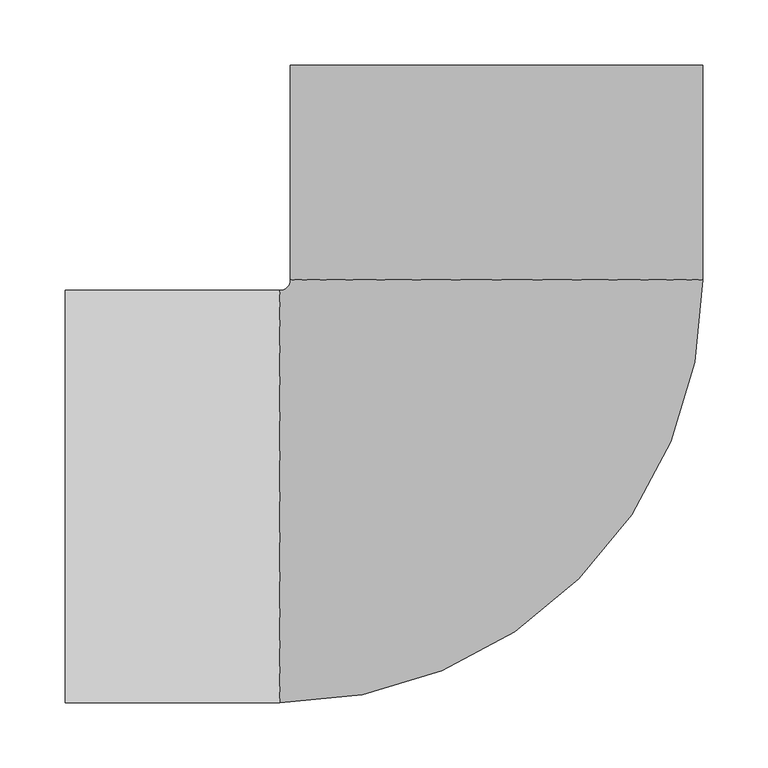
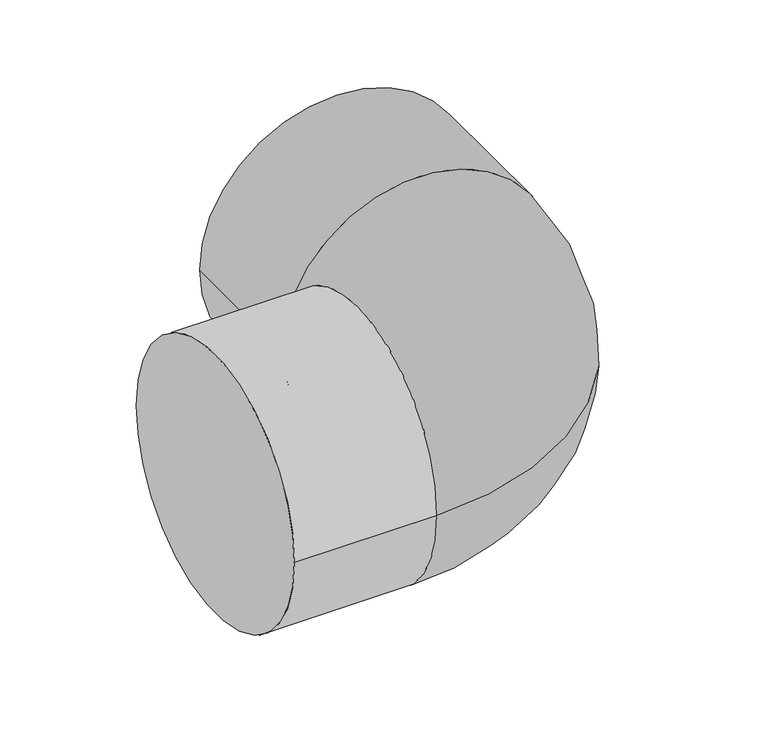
"""IFC4 building model written with IfcOpenShell, lengths in millimetres: pipe fitting geometry, 01051001 : Coudes à 90º."""

from ifc_helpers import new_model, si_unit, point, frame, origin, place, context, project, spatial, circle_curve, ellipse_curve, trimmed, source, transform, mapped, element, save
from ifc_brep_helpers import plane_surface, cylinder_surface, revolved_surface, advanced_brep


def pipe_fitting_15c40729(model_context):
    return source(origin(), model_context, "Body", "AdvancedBrep", [
        advanced_brep(
        [(-167.0, -158.65, 0.0), (158.65, 167.0, 0.0), (-158.65, 167.0, 0.0), (-167.0, 158.65, 0.0), (-158.65, 332.0, 0.0), (158.65, 332.0, 0.0), (-332.0, 158.65, 0.0), (-332.0, -158.65, 0.0)],
        [
            (0, 1, circle_curve(frame((-167.0, 167.0, 0.0), z_axis=(0.0, 0.0, 1.0), x_axis=(1.0, 0.0, 0.0)), 325.65)),
            (1, 2, circle_curve(frame((0.0, 167.0, 0.0), z_axis=(0.0, -1.0, 0.0), x_axis=(1.0, 0.0, 0.0)), 158.65)),
            (2, 3, circle_curve(frame((-167.0, 167.0, 0.0), z_axis=(0.0, 0.0, -1.0), x_axis=(1.0, 0.0, 0.0)), 8.35)),
            (3, 0, circle_curve(frame((-167.0, 0.0, 0.0), z_axis=(1.0, 0.0, 0.0), x_axis=(0.0, -1.0, 0.0)), 158.65)),
            (2, 1, circle_curve(frame((0.0, 167.0, 0.0), z_axis=(0.0, -1.0, 0.0), x_axis=(1.0, 0.0, 0.0)), 158.65)),
            (0, 3, circle_curve(frame((-167.0, 0.0, 0.0), z_axis=(1.0, 0.0, 0.0), x_axis=(0.0, -1.0, 0.0)), 158.65)),
            (4, 5, circle_curve(frame((0.0, 332.0, 0.0), z_axis=(0.0, 1.0, 0.0), x_axis=(1.0, 0.0, 0.0)), 158.65)),
            (5, 4, circle_curve(frame((0.0, 332.0, 0.0), z_axis=(0.0, 1.0, 0.0), x_axis=(1.0, 0.0, 0.0)), 158.65)),
            (4, 2),
            (1, 5),
            (6, 7, circle_curve(frame((-332.0, 0.0, 0.0), z_axis=(-1.0, 0.0, 0.0), x_axis=(0.0, -1.0, 0.0)), 158.65)),
            (7, 6, circle_curve(frame((-332.0, 0.0, 0.0), z_axis=(-1.0, 0.0, 0.0), x_axis=(0.0, -1.0, 0.0)), 158.65)),
            (3, 6),
            (7, 0),
        ],
        [
            revolved_surface(trimmed(ellipse_curve(frame((0.0, 167.0, 0.0), z_axis=(0.0, 1.0, 0.0), x_axis=(1.0, 0.0, 0.0)), 158.65, 158.65), [point((-158.65, 167.0, 0.0))], [point((158.65, 167.0, 0.0))], True, "CARTESIAN"), (-167.0, 167.0, 0.0), (0.0, 0.0, -1.0)),
            revolved_surface(trimmed(ellipse_curve(frame((0.0, 167.0, 0.0), z_axis=(0.0, 1.0, 0.0), x_axis=(1.0, 0.0, 0.0)), 158.65, 158.65), [point((158.65, 167.0, 0.0))], [point((-158.65, 167.0, 0.0))], True, "CARTESIAN"), (-167.0, 167.0, 0.0), (0.0, 0.0, -1.0)),
            plane_surface(frame((0.0, 332.0, 0.0), z_axis=(0.0, 1.0, 0.0), x_axis=(0.0, 0.0, 1.0))),
            cylinder_surface(frame((0.0, 332.0, 0.0), z_axis=(0.0, 1.0, 0.0), x_axis=(1.0, 0.0, 0.0)), 158.65),
            plane_surface(frame((-332.0, 0.0, 0.0), z_axis=(-1.0, 0.0, 0.0), x_axis=(0.0, 0.0, 1.0))),
            cylinder_surface(frame((-167.0, 0.0, 0.0), z_axis=(1.0, 0.0, 0.0), x_axis=(0.0, -1.0, 0.0)), 158.65),
        ],
        [
            (0, [[1, 2, 3, 4]]),
            (1, [[-3, 5, -1, 6]]),
            (2, [[7, 8]]),
            (3, [[-7, 9, -2, 10]]),
            (3, [[-8, -10, -5, -9]]),
            (4, [[11, 12]]),
            (5, [[-4, 13, -12, 14]]),
            (5, [[-6, -14, -11, -13]]),
        ],
    ),
    ])


if __name__ == "__main__":
    model = new_model("IFC4")
    model_context = context("Model", 3, world=origin())
    ifc_project = project(units=[si_unit("LENGTHUNIT", "METRE", prefix="MILLI")], contexts=[model_context])
    site = spatial("IfcSite", under=ifc_project)
    building = spatial("IfcBuilding", under=site)
    placement = place(None, origin())
    pipe_fitting_shape = pipe_fitting_15c40729(model_context)
    element("IfcPipeFitting", 1, ObjectType="01051001 : Coudes à 90º", at=placement, inside=building, context=model_context, shape_type="MappedRepresentation", body=[
        mapped(pipe_fitting_shape, transform((0.0, 0.0, 0.0), x_axis=(1.0, 0.0, 0.0), y_axis=(0.0, 1.0, 0.0), z_axis=(0.0, 0.0, 1.0))),
    ])
    save(model, "model.ifc")
